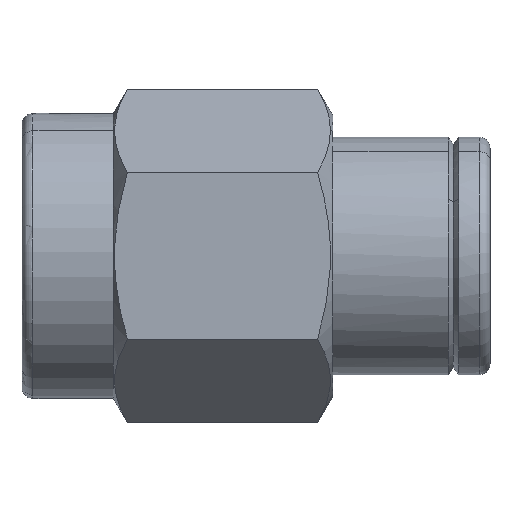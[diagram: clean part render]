
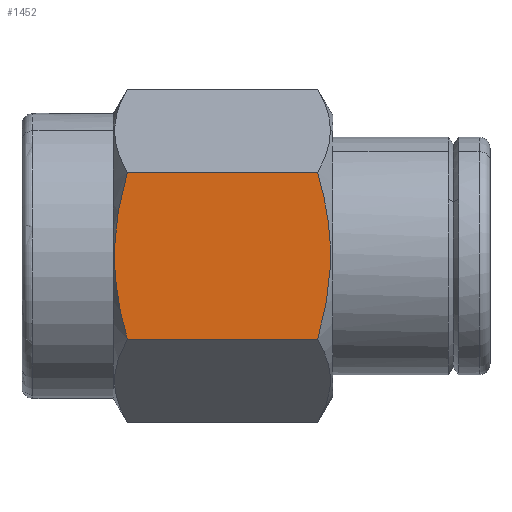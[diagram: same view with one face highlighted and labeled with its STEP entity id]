
A CAD part, top view. The second image highlights one B-rep face of the part: STEP entity #1452.
In plain terms, the highlighted planar face has unit normal (0, 0, 1).
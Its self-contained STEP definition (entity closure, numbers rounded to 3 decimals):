
#1212=CARTESIAN_POINT('Control Point',(2.882,-2.281,3.95)) ;
#1213=CARTESIAN_POINT('Control Point',(2.563,-1.177,3.95)) ;
#1214=CARTESIAN_POINT('Control Point',(2.478,-0.406,3.95)) ;
#1215=CARTESIAN_POINT('Control Point',(2.477,0.404,3.95)) ;
#1216=CARTESIAN_POINT('Control Point',(2.563,1.177,3.95)) ;
#1217=CARTESIAN_POINT('Control Point',(2.882,2.281,3.95)) ;
#1218=CARTESIAN_POINT('Vertex',(2.882,-2.281,3.95)) ;
#1220=CARTESIAN_POINT('Vertex',(2.882,2.281,3.95)) ;
#1380=CARTESIAN_POINT('Line Origine',(5.483,2.281,3.95)) ;
#1384=CARTESIAN_POINT('Vertex',(8.085,2.281,3.95)) ;
#1420=CARTESIAN_POINT('Axis2P3D Location',(0.,-2.281,3.95)) ;
#1425=CARTESIAN_POINT('Line Origine',(5.483,-2.281,3.95)) ;
#1429=CARTESIAN_POINT('Vertex',(8.085,-2.281,3.95)) ;
#1433=CARTESIAN_POINT('Control Point',(8.085,2.281,3.95)) ;
#1434=CARTESIAN_POINT('Control Point',(8.206,1.86,3.95)) ;
#1435=CARTESIAN_POINT('Control Point',(8.307,1.443,3.95)) ;
#1436=CARTESIAN_POINT('Control Point',(8.379,1.034,3.95)) ;
#1437=CARTESIAN_POINT('Control Point',(8.462,0.231,3.95)) ;
#1438=CARTESIAN_POINT('Control Point',(8.431,-0.569,3.95)) ;
#1439=CARTESIAN_POINT('Control Point',(8.388,-0.966,3.95)) ;
#1440=CARTESIAN_POINT('Control Point',(8.297,-1.467,3.95)) ;
#1441=CARTESIAN_POINT('Control Point',(8.17,-1.975,3.95)) ;
#1442=CARTESIAN_POINT('Control Point',(8.143,-2.077,3.95)) ;
#1443=CARTESIAN_POINT('Control Point',(8.114,-2.179,3.95)) ;
#1444=CARTESIAN_POINT('Control Point',(8.085,-2.281,3.95)) ;
#1381=DIRECTION('Vector Direction',(1.,0.,0.)) ;
#1421=DIRECTION('Axis2P3D Direction',(0.,0.,-1.)) ;
#1422=DIRECTION('Axis2P3D XDirection',(0.,1.,0.)) ;
#1426=DIRECTION('Vector Direction',(1.,0.,0.)) ;
#1423=AXIS2_PLACEMENT_3D('Plane Axis2P3D',#1420,#1421,#1422) ;
#1447=ORIENTED_EDGE('',*,*,#1431,.T.) ;
#1448=ORIENTED_EDGE('',*,*,#1445,.F.) ;
#1449=ORIENTED_EDGE('',*,*,#1386,.F.) ;
#1450=ORIENTED_EDGE('',*,*,#1222,.F.) ;
#1382=VECTOR('Line Direction',#1381,1.) ;
#1427=VECTOR('Line Direction',#1426,1.) ;
#1452=ADVANCED_FACE('\X2\96F690E84EF651E04F554F53\X0\',(#1451),#1424,.F.) ;
#1211=B_SPLINE_CURVE_WITH_KNOTS('',5,(#1212,#1213,#1214,#1215,#1216,#1217),.UNSPECIFIED.,.F.,.U.,(6,6),(0.,104.922),.UNSPECIFIED.) ;
#1432=B_SPLINE_CURVE_WITH_KNOTS('',5,(#1433,#1434,#1435,#1436,#1437,#1438,#1439,#1440,#1441,#1442,#1443,#1444),.UNSPECIFIED.,.F.,.U.,(6,3,3,6),(0.,2.959,5.843,6.56),.UNSPECIFIED.) ;
#1222=EDGE_CURVE('',#1219,#1221,#1211,.T.) ;
#1386=EDGE_CURVE('',#1221,#1385,#1383,.T.) ;
#1431=EDGE_CURVE('',#1219,#1430,#1428,.T.) ;
#1445=EDGE_CURVE('',#1385,#1430,#1432,.T.) ;
#1446=EDGE_LOOP('',(#1447,#1448,#1449,#1450)) ;
#1451=FACE_OUTER_BOUND('',#1446,.T.) ;
#1383=LINE('Line',#1380,#1382) ;
#1428=LINE('Line',#1425,#1427) ;
#1424=PLANE('Plane',#1423) ;
#1219=VERTEX_POINT('',#1218) ;
#1221=VERTEX_POINT('',#1220) ;
#1385=VERTEX_POINT('',#1384) ;
#1430=VERTEX_POINT('',#1429) ;
